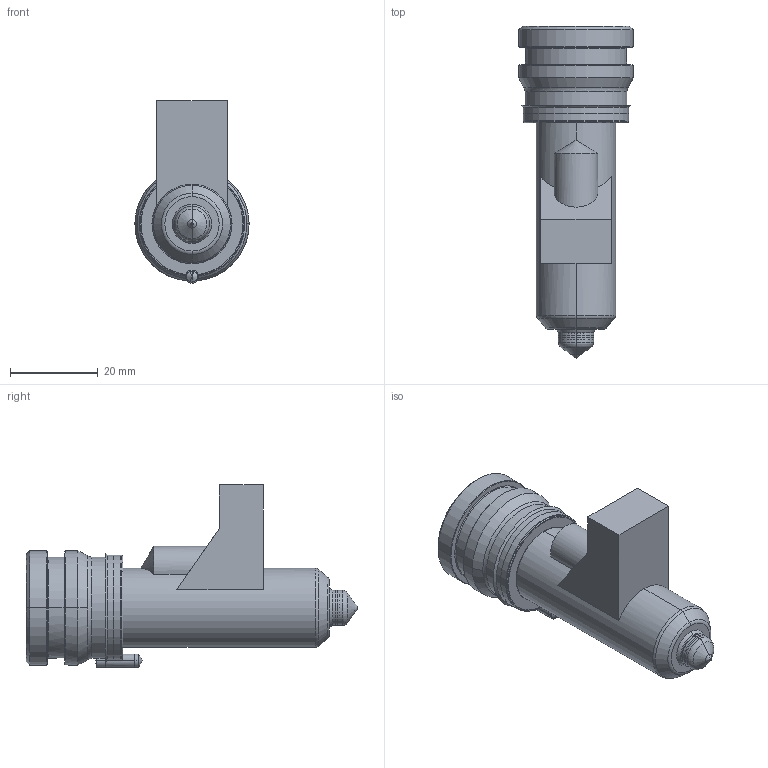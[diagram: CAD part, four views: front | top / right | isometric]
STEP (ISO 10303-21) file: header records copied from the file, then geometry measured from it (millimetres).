
FILE_DESCRIPTION((''),'2;1');
FILE_NAME('MPN-08-24-TX8-056-M','2026-02-05T13:25:41',('UPTIO'),('Thermoplay S.p.A.'),'CREO PARAMETRIC BY PTC INC, 2023494','CREO PARAMETRIC BY PTC INC, 2023494','');
FILE_SCHEMA(('CONFIG_CONTROL_DESIGN','SHAPE_APPEARANCE_LAYERS_GROUPS'));
Length unit declared in the file: millimetre
Products named in the file (1): MPN-08-24-TX8-056-M
Bounding box: 26 x 75.5 x 41.5 mm (x, y, z)
Volume: 16069.8 mm3; surface area: 20311.9 mm2
Topology: 2 solids, 3 shells, 532 faces, 1392 edges, 855 vertices
Faces by surface type: cylinder 174, plane 144, bspline 77, torus 62, cone 58, sphere 11, extrusion 6
Entity records: 29219 total; most frequent: CARTESIAN_POINT 13595, ORIENTED_EDGE 2762, DIRECTION 2491, EDGE_CURVE 1381, AXIS2_PLACEMENT_3D 974, VERTEX_POINT 855, EDGE_LOOP 562, VECTOR 543
